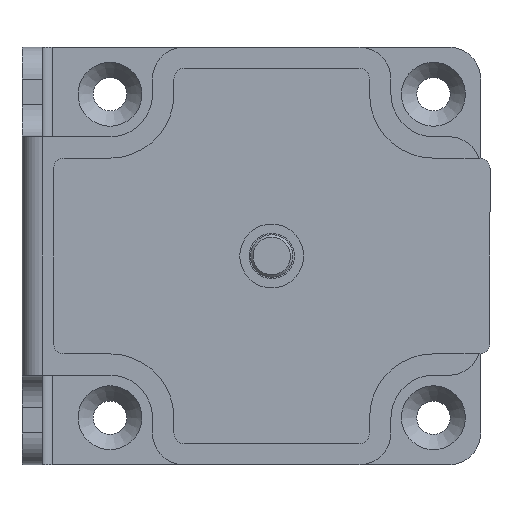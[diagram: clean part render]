
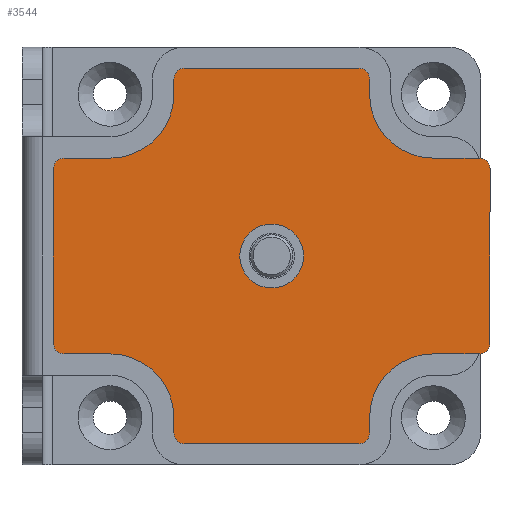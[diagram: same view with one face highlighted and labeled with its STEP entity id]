
A CAD part, front view. The second image highlights one B-rep face of the part: STEP entity #3544.
In plain terms, the highlighted planar face has unit normal (0, -1, 0).
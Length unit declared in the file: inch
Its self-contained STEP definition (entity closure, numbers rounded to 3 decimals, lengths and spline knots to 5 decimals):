
#164=LINE('',#6049,#376);
#169=LINE('',#6064,#381);
#173=LINE('',#6076,#385);
#178=LINE('',#6091,#390);
#182=LINE('',#6103,#394);
#185=LINE('',#6111,#397);
#188=LINE('',#6123,#400);
#192=LINE('',#6140,#404);
#195=LINE('',#6149,#407);
#198=LINE('',#6158,#410);
#203=LINE('',#6170,#415);
#204=LINE('',#6173,#416);
#376=VECTOR('',#4815,0.269);
#381=VECTOR('',#4828,1.023);
#385=VECTOR('',#4840,0.269);
#390=VECTOR('',#4853,1.023);
#394=VECTOR('',#4865,0.0895);
#397=VECTOR('',#4874,1.023);
#400=VECTOR('',#4885,1.023);
#404=VECTOR('',#4903,0.269);
#407=VECTOR('',#4914,0.0895);
#410=VECTOR('',#4925,0.269);
#415=VECTOR('',#4938,0.0895);
#416=VECTOR('',#4941,0.0895);
#544=PLANE('',#3968);
#659=FACE_BOUND('',#1031,.T.);
#824=FACE_OUTER_BOUND('',#1030,.T.);
#1030=EDGE_LOOP('',(#2900,#2901,#2902,#2903,#2904,#2905,#2906,#2907,#2908,
#2909,#2910,#2911,#2912,#2913,#2914,#2915,#2916,#2917,#2918,#2919,#2920,
#2921,#2922,#2923));
#1031=EDGE_LOOP('',(#2924));
#1303=CIRCLE('',#3920,0.063);
#1304=CIRCLE('',#3923,0.063);
#1306=CIRCLE('',#3927,0.063);
#1308=CIRCLE('',#3931,0.063);
#1310=CIRCLE('',#3935,0.063);
#1312=CIRCLE('',#3939,0.063);
#1313=CIRCLE('',#3942,0.063);
#1315=CIRCLE('',#3946,0.063);
#1318=CIRCLE('',#3950,0.1875);
#1319=CIRCLE('',#3953,0.375);
#1321=CIRCLE('',#3957,0.375);
#1323=CIRCLE('',#3961,0.375);
#1325=CIRCLE('',#3966,0.375);
#1579=VERTEX_POINT('',#6039);
#1580=VERTEX_POINT('',#6041);
#1582=VERTEX_POINT('',#6047);
#1583=VERTEX_POINT('',#6051);
#1584=VERTEX_POINT('',#6052);
#1588=VERTEX_POINT('',#6062);
#1589=VERTEX_POINT('',#6066);
#1592=VERTEX_POINT('',#6074);
#1593=VERTEX_POINT('',#6078);
#1594=VERTEX_POINT('',#6079);
#1598=VERTEX_POINT('',#6089);
#1599=VERTEX_POINT('',#6093);
#1602=VERTEX_POINT('',#6101);
#1603=VERTEX_POINT('',#6105);
#1604=VERTEX_POINT('',#6106);
#1605=VERTEX_POINT('',#6113);
#1606=VERTEX_POINT('',#6114);
#1609=VERTEX_POINT('',#6122);
#1611=VERTEX_POINT('',#6128);
#1614=VERTEX_POINT('',#6136);
#1615=VERTEX_POINT('',#6139);
#1617=VERTEX_POINT('',#6148);
#1619=VERTEX_POINT('',#6157);
#1621=VERTEX_POINT('',#6163);
#1623=VERTEX_POINT('',#6172);
#2014=EDGE_CURVE('',#1579,#1580,#1303,.T.);
#2018=EDGE_CURVE('',#1582,#1579,#164,.T.);
#2019=EDGE_CURVE('',#1583,#1584,#1304,.T.);
#2025=EDGE_CURVE('',#1588,#1583,#169,.T.);
#2026=EDGE_CURVE('',#1589,#1588,#1306,.T.);
#2031=EDGE_CURVE('',#1592,#1589,#173,.T.);
#2032=EDGE_CURVE('',#1593,#1594,#1308,.T.);
#2038=EDGE_CURVE('',#1598,#1593,#178,.T.);
#2039=EDGE_CURVE('',#1599,#1598,#1310,.T.);
#2044=EDGE_CURVE('',#1602,#1599,#182,.T.);
#2045=EDGE_CURVE('',#1603,#1604,#1312,.T.);
#2048=EDGE_CURVE('',#1580,#1603,#185,.T.);
#2049=EDGE_CURVE('',#1605,#1606,#1313,.T.);
#2053=EDGE_CURVE('',#1606,#1609,#188,.T.);
#2056=EDGE_CURVE('',#1609,#1611,#1315,.T.);
#2060=EDGE_CURVE('',#1614,#1614,#1318,.T.);
#2061=EDGE_CURVE('',#1604,#1615,#192,.T.);
#2064=EDGE_CURVE('',#1615,#1602,#1319,.T.);
#2066=EDGE_CURVE('',#1594,#1617,#195,.T.);
#2069=EDGE_CURVE('',#1617,#1592,#1321,.T.);
#2071=EDGE_CURVE('',#1584,#1619,#198,.T.);
#2074=EDGE_CURVE('',#1619,#1621,#1323,.T.);
#2078=EDGE_CURVE('',#1621,#1605,#203,.T.);
#2079=EDGE_CURVE('',#1611,#1623,#204,.T.);
#2082=EDGE_CURVE('',#1623,#1582,#1325,.T.);
#2900=ORIENTED_EDGE('',*,*,#2014,.F.);
#2901=ORIENTED_EDGE('',*,*,#2018,.F.);
#2902=ORIENTED_EDGE('',*,*,#2082,.F.);
#2903=ORIENTED_EDGE('',*,*,#2079,.F.);
#2904=ORIENTED_EDGE('',*,*,#2056,.F.);
#2905=ORIENTED_EDGE('',*,*,#2053,.F.);
#2906=ORIENTED_EDGE('',*,*,#2049,.F.);
#2907=ORIENTED_EDGE('',*,*,#2078,.F.);
#2908=ORIENTED_EDGE('',*,*,#2074,.F.);
#2909=ORIENTED_EDGE('',*,*,#2071,.F.);
#2910=ORIENTED_EDGE('',*,*,#2019,.F.);
#2911=ORIENTED_EDGE('',*,*,#2025,.F.);
#2912=ORIENTED_EDGE('',*,*,#2026,.F.);
#2913=ORIENTED_EDGE('',*,*,#2031,.F.);
#2914=ORIENTED_EDGE('',*,*,#2069,.F.);
#2915=ORIENTED_EDGE('',*,*,#2066,.F.);
#2916=ORIENTED_EDGE('',*,*,#2032,.F.);
#2917=ORIENTED_EDGE('',*,*,#2038,.F.);
#2918=ORIENTED_EDGE('',*,*,#2039,.F.);
#2919=ORIENTED_EDGE('',*,*,#2044,.F.);
#2920=ORIENTED_EDGE('',*,*,#2064,.F.);
#2921=ORIENTED_EDGE('',*,*,#2061,.F.);
#2922=ORIENTED_EDGE('',*,*,#2045,.F.);
#2923=ORIENTED_EDGE('',*,*,#2048,.F.);
#2924=ORIENTED_EDGE('',*,*,#2060,.T.);
#3544=ADVANCED_FACE('',(#824,#659),#544,.T.);
#3920=AXIS2_PLACEMENT_3D('',#6042,#4808,#4809);
#3923=AXIS2_PLACEMENT_3D('',#6053,#4818,#4819);
#3927=AXIS2_PLACEMENT_3D('',#6067,#4831,#4832);
#3931=AXIS2_PLACEMENT_3D('',#6080,#4843,#4844);
#3935=AXIS2_PLACEMENT_3D('',#6094,#4856,#4857);
#3939=AXIS2_PLACEMENT_3D('',#6107,#4868,#4869);
#3942=AXIS2_PLACEMENT_3D('',#6115,#4877,#4878);
#3946=AXIS2_PLACEMENT_3D('',#6129,#4890,#4891);
#3950=AXIS2_PLACEMENT_3D('',#6137,#4899,#4900);
#3953=AXIS2_PLACEMENT_3D('',#6145,#4908,#4909);
#3957=AXIS2_PLACEMENT_3D('',#6154,#4919,#4920);
#3961=AXIS2_PLACEMENT_3D('',#6164,#4930,#4931);
#3966=AXIS2_PLACEMENT_3D('',#6178,#4946,#4947);
#3968=AXIS2_PLACEMENT_3D('',#6180,#4950,#4951);
#4808=DIRECTION('center_axis',(0.,1.,0.));
#4809=DIRECTION('ref_axis',(0.707,0.,0.707));
#4815=DIRECTION('',(1.,0.,0.));
#4818=DIRECTION('center_axis',(0.,1.,0.));
#4819=DIRECTION('ref_axis',(-0.707,0.,0.707));
#4828=DIRECTION('',(0.,0.,1.));
#4831=DIRECTION('center_axis',(0.,1.,0.));
#4832=DIRECTION('ref_axis',(-0.707,0.,-0.707));
#4840=DIRECTION('',(-1.,0.,0.));
#4843=DIRECTION('center_axis',(0.,1.,0.));
#4844=DIRECTION('ref_axis',(-0.707,0.,-0.707));
#4853=DIRECTION('',(-1.,0.,0.));
#4856=DIRECTION('center_axis',(0.,1.,0.));
#4857=DIRECTION('ref_axis',(0.707,0.,-0.707));
#4865=DIRECTION('',(0.,0.,-1.));
#4868=DIRECTION('center_axis',(0.,1.,0.));
#4869=DIRECTION('ref_axis',(0.707,0.,-0.707));
#4874=DIRECTION('',(0.,0.,-1.));
#4877=DIRECTION('center_axis',(0.,1.,0.));
#4878=DIRECTION('ref_axis',(-0.707,0.,0.707));
#4885=DIRECTION('',(1.,0.,0.));
#4890=DIRECTION('center_axis',(0.,1.,0.));
#4891=DIRECTION('ref_axis',(0.707,0.,0.707));
#4899=DIRECTION('center_axis',(0.,1.,0.));
#4900=DIRECTION('ref_axis',(-1.,0.,0.));
#4903=DIRECTION('',(-1.,0.,0.));
#4908=DIRECTION('center_axis',(0.,-1.,0.));
#4909=DIRECTION('ref_axis',(0.,0.,
-1.));
#4914=DIRECTION('',(0.,0.,1.));
#4919=DIRECTION('center_axis',(0.,-1.,0.));
#4920=DIRECTION('ref_axis',(-1.,0.,0.));
#4925=DIRECTION('',(1.,0.,0.));
#4930=DIRECTION('center_axis',(0.,-1.,0.));
#4931=DIRECTION('ref_axis',(0.,0.,1.));
#4938=DIRECTION('',(0.,0.,1.));
#4941=DIRECTION('',(0.,0.,-1.));
#4946=DIRECTION('center_axis',(0.,-1.,0.));
#4947=DIRECTION('ref_axis',(1.,0.,0.));
#4950=DIRECTION('center_axis',(0.,-1.,0.));
#4951=DIRECTION('ref_axis',(1.,0.,0.));
#6039=CARTESIAN_POINT('',(-0.0085,-0.0625,0.5745));
#6041=CARTESIAN_POINT('',(0.0545,-0.0625,0.5115));
#6042=CARTESIAN_POINT('Origin',(-0.0085,-0.0625,
0.5115));
#6047=CARTESIAN_POINT('',(-0.2775,-0.0625,0.5745));
#6049=CARTESIAN_POINT('',(0.0545,-0.0625,0.5745));
#6051=CARTESIAN_POINT('',(-2.5085,-0.0625,0.5115));
#6052=CARTESIAN_POINT('',(-2.4455,-0.0625,0.5745));
#6053=CARTESIAN_POINT('Origin',(-2.4455,-0.0625,0.5115));
#6062=CARTESIAN_POINT('',(-2.5085,-0.0625,-0.5115));
#6064=CARTESIAN_POINT('',(-2.5085,-0.0625,0.5745));
#6066=CARTESIAN_POINT('',(-2.4455,-0.0625,-0.5745));
#6067=CARTESIAN_POINT('Origin',(-2.4455,-0.0625,-0.5115));
#6074=CARTESIAN_POINT('',(-2.1765,-0.0625,-0.5745));
#6076=CARTESIAN_POINT('',(-2.5085,-0.0625,-0.5745));
#6078=CARTESIAN_POINT('',(-1.7385,-0.0625,-1.102));
#6079=CARTESIAN_POINT('',(-1.8015,-0.0625,-1.039));
#6080=CARTESIAN_POINT('Origin',(-1.7385,-0.0625,-1.039));
#6089=CARTESIAN_POINT('',(-0.7155,-0.0625,-1.102));
#6091=CARTESIAN_POINT('',(-1.8015,-0.0625,-1.102));
#6093=CARTESIAN_POINT('',(-0.6525,-0.0625,-1.039));
#6094=CARTESIAN_POINT('Origin',(-0.7155,-0.0625,-1.039));
#6101=CARTESIAN_POINT('',(-0.6525,-0.0625,-0.9495));
#6103=CARTESIAN_POINT('',(-0.6525,-0.0625,-1.102));
#6105=CARTESIAN_POINT('',(0.0545,-0.0625,-0.5115));
#6106=CARTESIAN_POINT('',(-0.0085,-0.0625,-0.5745));
#6107=CARTESIAN_POINT('Origin',(-0.0085,-0.0625,
-0.5115));
#6111=CARTESIAN_POINT('',(0.0545,-0.0625,-0.5745));
#6113=CARTESIAN_POINT('',(-1.8015,-0.0625,1.039));
#6114=CARTESIAN_POINT('',(-1.7385,-0.0625,1.102));
#6115=CARTESIAN_POINT('Origin',(-1.7385,-0.0625,1.039));
#6122=CARTESIAN_POINT('',(-0.7155,-0.0625,1.102));
#6123=CARTESIAN_POINT('',(-0.6525,-0.0625,1.102));
#6128=CARTESIAN_POINT('',(-0.6525,-0.0625,1.039));
#6129=CARTESIAN_POINT('Origin',(-0.7155,-0.0625,
1.039));
#6136=CARTESIAN_POINT('',(-1.0395,-0.0625,0.));
#6137=CARTESIAN_POINT('Origin',(-1.227,-0.0625,0.));
#6139=CARTESIAN_POINT('',(-0.2775,-0.0625,-0.5745));
#6140=CARTESIAN_POINT('',(-0.2775,-0.0625,-0.5745));
#6145=CARTESIAN_POINT('Origin',(-0.2775,-0.0625,-0.9495));
#6148=CARTESIAN_POINT('',(-1.8015,-0.0625,-0.9495));
#6149=CARTESIAN_POINT('',(-1.8015,-0.0625,-0.9495));
#6154=CARTESIAN_POINT('Origin',(-2.1765,-0.0625,-0.9495));
#6157=CARTESIAN_POINT('',(-2.1765,-0.0625,0.5745));
#6158=CARTESIAN_POINT('',(-2.1765,-0.0625,0.5745));
#6163=CARTESIAN_POINT('',(-1.8015,-0.0625,0.9495));
#6164=CARTESIAN_POINT('Origin',(-2.1765,-0.0625,0.9495));
#6170=CARTESIAN_POINT('',(-1.8015,-0.0625,1.102));
#6172=CARTESIAN_POINT('',(-0.6525,-0.0625,0.9495));
#6173=CARTESIAN_POINT('',(-0.6525,-0.0625,0.9495));
#6178=CARTESIAN_POINT('Origin',(-0.2775,-0.0625,
0.9495));
#6180=CARTESIAN_POINT('Origin',(-1.227,-0.0625,0.));
